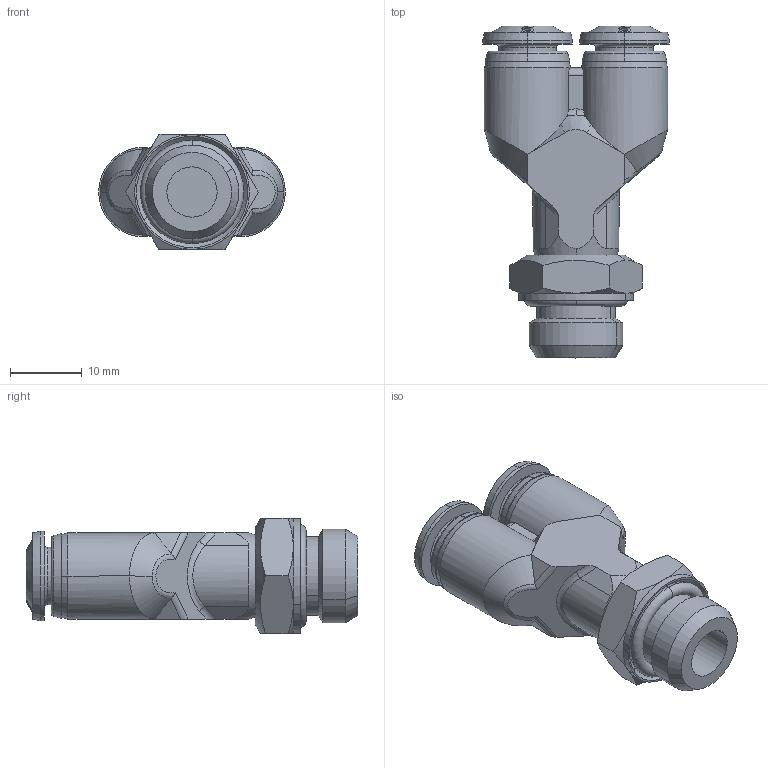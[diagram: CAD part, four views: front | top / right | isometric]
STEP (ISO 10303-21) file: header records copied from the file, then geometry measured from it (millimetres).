
FILE_DESCRIPTION (( 'STEP AP214' ), '1' );
FILE_NAME ('5532500006.step', '2012-10-02T17:46:50', ( '' ), ( '' ), 'SwSTEP 2.0', 'SolidWorks 2012', '' );
FILE_SCHEMA (( 'AUTOMOTIVE_DESIGN' ));
Length unit declared in the file: millimetre
Products named in the file (1): 5532500006
Bounding box: 26 x 46.2 x 16.01 mm (x, y, z)
Volume: 7821.8 mm3; surface area: 4035.8 mm2
Topology: 2 solids, 2 shells, 275 faces, 711 edges, 460 vertices
Faces by surface type: bspline 102, cone 68, plane 42, cylinder 40, torus 23
Entity records: 19124 total; most frequent: CARTESIAN_POINT 10373, ORIENTED_EDGE 1422, DIRECTION 794, EDGE_CURVE 711, VERTEX_POINT 460, B_SPLINE_CURVE_WITH_KNOTS 396, AXIS2_PLACEMENT_3D 331, EDGE_LOOP 297
